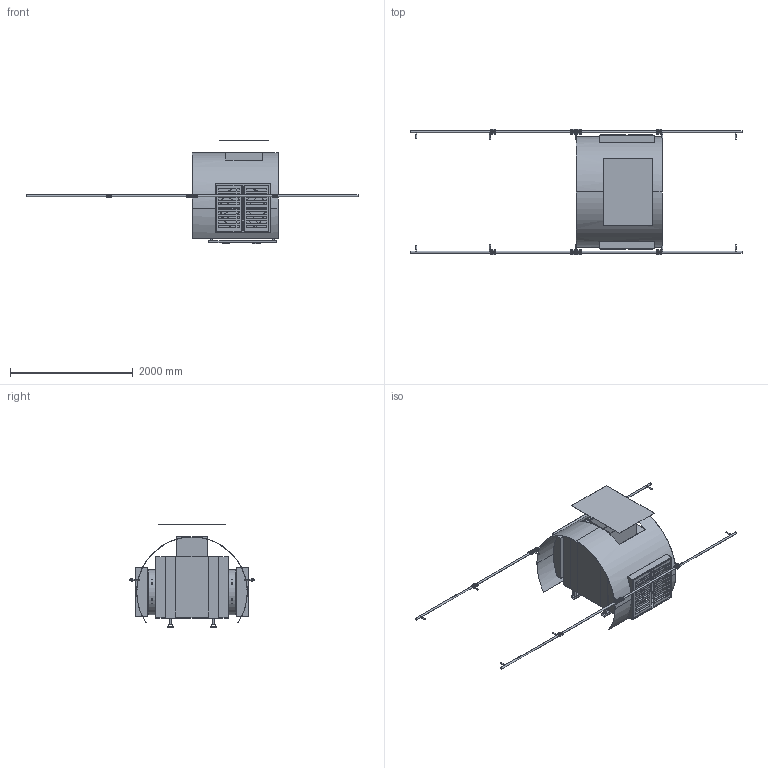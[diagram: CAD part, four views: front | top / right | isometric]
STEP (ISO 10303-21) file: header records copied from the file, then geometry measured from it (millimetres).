
FILE_DESCRIPTION(('Open CASCADE Model'),'2;1');
FILE_NAME('Open CASCADE Shape Model','2026-10-19T20:47:42',('Author'),( 'Open CASCADE'),'Open CASCADE STEP processor 7.8','Open CASCADE 7.8' ,'Unknown');
FILE_SCHEMA(('AUTOMOTIVE_DESIGN { 1 0 10303 214 1 1 1 1 }'));
Length unit declared in the file: millimetre
Products named in the file (217): Open CASCADE STEP translator 7.8 1; Open CASCADE STEP translator 7.8 1.1; Open CASCADE STEP translator 7.8 1.2; Open CASCADE STEP translator 7.8 1.3; Open CASCADE STEP translator 7.8 1.4; Open CASCADE STEP translator 7.8 1.5; Open CASCADE STEP translator 7.8 1.6; Open CASCADE STEP translator 7.8 1.7; Open CASCADE STEP translator 7.8 1.8; Open CASCADE STEP translator 7.8 1.9; Open CASCADE STEP translator 7.8 1.10; Open CASCADE STEP translator 7.8 1.11; Open CASCADE STEP translator 7.8 1.12; Open CASCADE STEP translator 7.8 1.13; Open CASCADE STEP translator 7.8 1.14; Open CASCADE STEP translator 7.8 1.15; Open CASCADE STEP translator 7.8 1.16; Open CASCADE STEP translator 7.8 1.17; Open CASCADE STEP translator 7.8 1.18; Open CASCADE STEP translator 7.8 1.19; Open CASCADE STEP translator 7.8 1.20; Open CASCADE STEP translator 7.8 1.21; Open CASCADE STEP translator 7.8 1.22; Open CASCADE STEP translator 7.8 1.23; Open CASCADE STEP translator 7.8 1.24; Open CASCADE STEP translator 7.8 1.25; Open CASCADE STEP translator 7.8 1.26; Open CASCADE STEP translator 7.8 1.27; Open CASCADE STEP translator 7.8 1.28; Open CASCADE STEP translator 7.8 1.29; Open CASCADE STEP translator 7.8 1.30; Open CASCADE STEP translator 7.8 1.31; Open CASCADE STEP translator 7.8 1.32; Open CASCADE STEP translator 7.8 1.33; Open CASCADE STEP translator 7.8 1.34; Open CASCADE STEP translator 7.8 1.34.1; Open CASCADE STEP translator 7.8 1.34.2; Open CASCADE STEP translator 7.8 1.34.3; Open CASCADE STEP translator 7.8 1.34.4; Open CASCADE STEP translator 7.8 1.34.5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
Assembly tree (216 placements, depth 3):
  Open CASCADE STEP translator 7.8 1
    Open CASCADE STEP translator 7.8 1.1
    Open CASCADE STEP translator 7.8 1.2
    Open CASCADE STEP translator 7.8 1.3
    Open CASCADE STEP translator 7.8 1.4
    Open CASCADE STEP translator 7.8 1.5
    Open CASCADE STEP translator 7.8 1.6
    Open CASCADE STEP translator 7.8 1.7
    Open CASCADE STEP translator 7.8 1.8
    Open CASCADE STEP translator 7.8 1.9
    Open CASCADE STEP translator 7.8 1.10
    Open CASCADE STEP translator 7.8 1.11
    Open CASCADE STEP translator 7.8 1.12
    Open CASCADE STEP translator 7.8 1.13
    Open CASCADE STEP translator 7.8 1.14
    Open CASCADE STEP translator 7.8 1.15
    Open CASCADE STEP translator 7.8 1.16
    Open CASCADE STEP translator 7.8 1.17
    Open CASCADE STEP translator 7.8 1.18
    Open CASCADE STEP translator 7.8 1.19
    Open CASCADE STEP translator 7.8 1.20
    Open CASCADE STEP translator 7.8 1.21
    Open CASCADE STEP translator 7.8 1.22
    Open CASCADE STEP translator 7.8 1.23
    Open CASCADE STEP translator 7.8 1.24
    Open CASCADE STEP translator 7.8 1.25
    Open CASCADE STEP translator 7.8 1.26
    Open CASCADE STEP translator 7.8 1.27
    Open CASCADE STEP translator 7.8 1.28
    Open CASCADE STEP translator 7.8 1.29
    Open CASCADE STEP translator 7.8 1.30
    Open CASCADE STEP translator 7.8 1.31
    Open CASCADE STEP translator 7.8 1.32
    Open CASCADE STEP translator 7.8 1.33
    Open CASCADE STEP translator 7.8 1.34
      Open CASCADE STEP translator 7.8 1.34.1
      Open CASCADE STEP translator 7.8 1.34.2
      Open CASCADE STEP translator 7.8 1.34.3
      Open CASCADE STEP translator 7.8 1.34.4
      Open CASCADE STEP translator 7.8 1.34.5
      Open CASCADE STEP translator 7.8 1.34.6
      Open CASCADE STEP translator 7.8 1.34.7
      Open CASCADE STEP translator 7.8 1.34.8
      Open CASCADE STEP translator 7.8 1.34.9
      Open CASCADE STEP translator 7.8 1.34.10
      Open CASCADE STEP translator 7.8 1.34.11
      Open CASCADE STEP translator 7.8 1.34.12
      Open CASCADE STEP translator 7.8 1.34.13
      Open CASCADE STEP translator 7.8 1.34.14
    Open CASCADE STEP translator 7.8 1.35
    Open CASCADE STEP translator 7.8 1.36
    Open CASCADE STEP translator 7.8 1.37
    Open CASCADE STEP translator 7.8 1.38
    Open CASCADE STEP translator 7.8 1.39
    Open CASCADE STEP translator 7.8 1.40
    Open CASCADE STEP translator 7.8 1.41
    Open CASCADE STEP translator 7.8 1.42
    Open CASCADE STEP translator 7.8 1.43
      Open CASCADE STEP translator 7.8 1.43.1
      Open CASCADE STEP translator 7.8 1.43.2
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Bounding box: 5400 x 2035 x 1678 mm (x, y, z)
Volume: 416065031.1 mm3; surface area: 35932217.8 mm2
Topology: 214 solids, 214 shells, 2100 faces, 4700 edges, 3046 vertices
Faces by surface type: plane 1564, cylinder 536
Full cylindrical faces by diameter (mm): 6 x32, 6.4 x64, 6.6 x64, 10 x32, 12 x32, 20 x20, 26 x10, 32 x26, 36 x16, 180 x2, 710 x4, 740 x6
Entity records: 124854 total; most frequent: CARTESIAN_POINT 25635, DIRECTION 17574, LINE 9476, VECTOR 9476, ORIENTED_EDGE 9400, PCURVE 9400, DEFINITIONAL_REPRESENTATION 9400, EDGE_CURVE 4700
